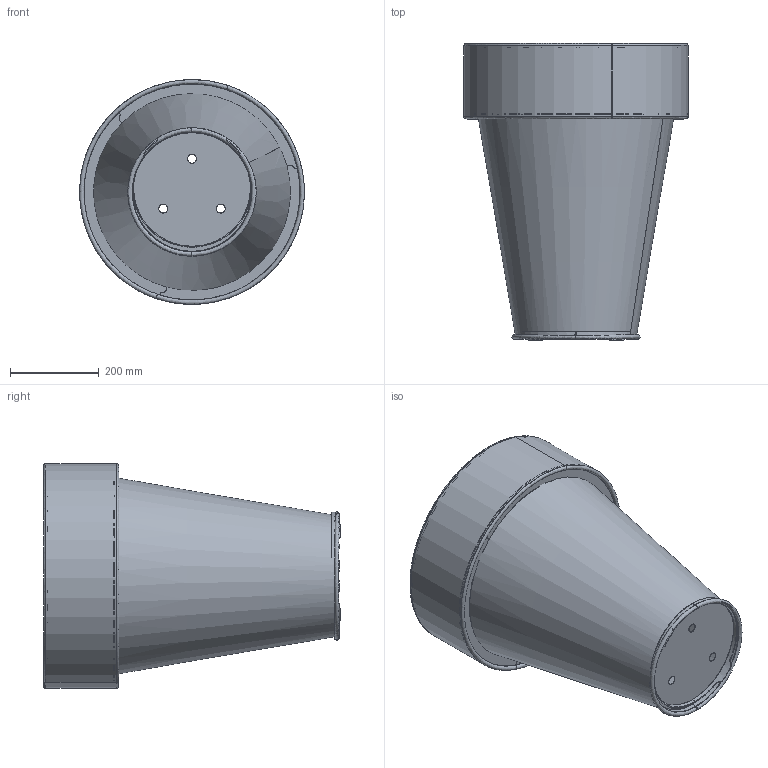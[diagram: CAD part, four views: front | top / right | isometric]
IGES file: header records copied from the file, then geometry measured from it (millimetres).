
Start section: SolidWorks IGES file using analytic representation for surfaces
Global section: file name: \\utenti\Dati Utenti\Tecnico\DC\2D - 3D per sito\3D\DeCastelli-3D-Omega 67.igs; native system: SolidWorks 2022; preprocessor: SolidWorks 2022; author: Simonep; date: 240807.172518; units: millimetre
Bounding box: 507.58 x 670.04 x 507.67 mm (x, y, z)
Surface area: 2266768.2 mm2 (no closed solid volume)
Topology: 0 solids, 0 shells, 74 faces, 1426 edges, 1426 vertices
Faces by surface type: bspline 49, revolution 25
